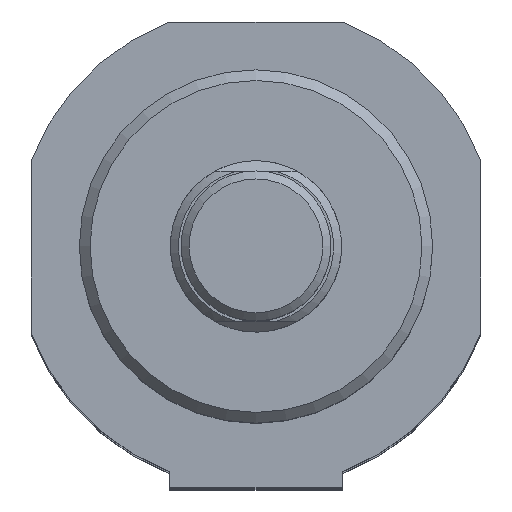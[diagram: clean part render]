
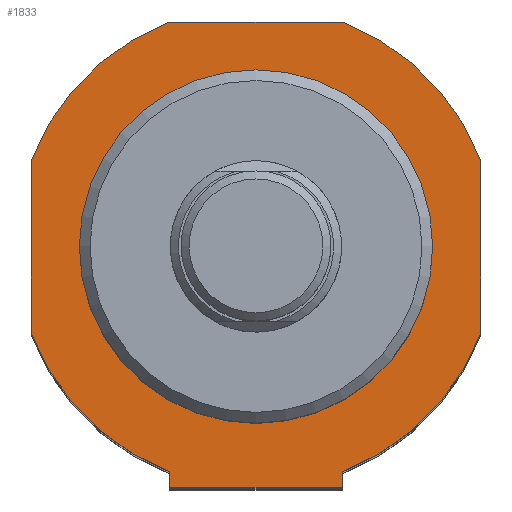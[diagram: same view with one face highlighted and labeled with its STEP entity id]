
A CAD part, top view. The second image highlights one B-rep face of the part: STEP entity #1833.
In plain terms, the highlighted planar face has unit normal (0, 0, 1).
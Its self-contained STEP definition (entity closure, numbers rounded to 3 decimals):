
#898=CARTESIAN_POINT('',(8.078,-22.5,149.0));
#899=VERTEX_POINT('',#898);
#900=CARTESIAN_POINT('',(-8.078,-22.5,149.0));
#901=VERTEX_POINT('',#900);
#902=CARTESIAN_POINT('',(8.078,-22.5,149.0));
#903=DIRECTION('',(-1.0,0.0,0.0));
#904=VECTOR('',#903,16.155);
#905=LINE('',#902,#904);
#906=EDGE_CURVE('',#899,#901,#905,.T.);
#1054=CARTESIAN_POINT('',(-8.078,-21.,149.0));
#1055=VERTEX_POINT('',#1054);
#1069=CARTESIAN_POINT('',(-8.078,-21.,149.0));
#1070=DIRECTION('',(0.0,-1.0,0.0));
#1071=VECTOR('',#1070,1.5);
#1072=LINE('',#1069,#1071);
#1073=EDGE_CURVE('',#1055,#901,#1072,.T.);
#1085=CARTESIAN_POINT('',(8.078,-21.,149.0));
#1086=VERTEX_POINT('',#1085);
#1093=CARTESIAN_POINT('',(8.078,-21.,149.0));
#1094=DIRECTION('',(0.0,-1.0,0.0));
#1095=VECTOR('',#1094,1.5);
#1096=LINE('',#1093,#1095);
#1097=EDGE_CURVE('',#1086,#899,#1096,.T.);
#1561=CARTESIAN_POINT('',(16.5,0.,149.0));
#1562=VERTEX_POINT('',#1561);
#1563=CARTESIAN_POINT('',(0.,0.,149.0));
#1564=DIRECTION('',(0.0,0.0,-1.0));
#1565=DIRECTION('',(-1.0,0.0,0.0));
#1566=AXIS2_PLACEMENT_3D('',#1563,#1564,#1565);
#1567=CIRCLE('',#1566,16.5);
#1568=EDGE_CURVE('',#1562,#1562,#1567,.T.);
#1653=CARTESIAN_POINT('',(-8.078,21.,149.0));
#1654=VERTEX_POINT('',#1653);
#1655=CARTESIAN_POINT('',(8.078,21.,149.0));
#1656=VERTEX_POINT('',#1655);
#1657=CARTESIAN_POINT('',(-8.078,21.,149.0));
#1658=DIRECTION('',(1.0,0.0,0.0));
#1659=VECTOR('',#1658,16.155);
#1660=LINE('',#1657,#1659);
#1661=EDGE_CURVE('',#1654,#1656,#1660,.T.);
#1684=CARTESIAN_POINT('',(21.,8.078,149.0));
#1685=VERTEX_POINT('',#1684);
#1686=CARTESIAN_POINT('',(0.,0.,149.0));
#1687=DIRECTION('',(0.,0.,-1.0));
#1688=DIRECTION('',(0.933,0.359,0.));
#1689=AXIS2_PLACEMENT_3D('',#1686,#1687,#1688);
#1690=CIRCLE('',#1689,22.5);
#1691=EDGE_CURVE('',#1656,#1685,#1690,.T.);
#1709=CARTESIAN_POINT('',(21.,-8.078,149.0));
#1710=VERTEX_POINT('',#1709);
#1711=CARTESIAN_POINT('',(21.,8.078,149.0));
#1712=DIRECTION('',(0.0,-1.0,0.0));
#1713=VECTOR('',#1712,16.155);
#1714=LINE('',#1711,#1713);
#1715=EDGE_CURVE('',#1685,#1710,#1714,.T.);
#1733=CARTESIAN_POINT('',(0.,0.,149.0));
#1734=DIRECTION('',(0.,0.,-1.));
#1735=DIRECTION('',(0.359,-0.933,0.));
#1736=AXIS2_PLACEMENT_3D('',#1733,#1734,#1735);
#1737=CIRCLE('',#1736,22.5);
#1738=EDGE_CURVE('',#1710,#1086,#1737,.T.);
#1751=CARTESIAN_POINT('',(-21.,-8.078,149.0));
#1752=VERTEX_POINT('',#1751);
#1753=CARTESIAN_POINT('',(0.,0.,149.0));
#1754=DIRECTION('',(0.,0.,-1.0));
#1755=DIRECTION('',(-0.933,-0.359,0.));
#1756=AXIS2_PLACEMENT_3D('',#1753,#1754,#1755);
#1757=CIRCLE('',#1756,22.5);
#1758=EDGE_CURVE('',#1055,#1752,#1757,.T.);
#1776=CARTESIAN_POINT('',(-21.,8.078,149.0));
#1777=VERTEX_POINT('',#1776);
#1778=CARTESIAN_POINT('',(-21.,-8.078,149.0));
#1779=DIRECTION('',(0.0,1.0,0.0));
#1780=VECTOR('',#1779,16.155);
#1781=LINE('',#1778,#1780);
#1782=EDGE_CURVE('',#1752,#1777,#1781,.T.);
#1800=CARTESIAN_POINT('',(0.,0.,149.0));
#1801=DIRECTION('',(0.,0.,-1.));
#1802=DIRECTION('',(-0.359,0.933,0.));
#1803=AXIS2_PLACEMENT_3D('',#1800,#1801,#1802);
#1804=CIRCLE('',#1803,22.5);
#1805=EDGE_CURVE('',#1777,#1654,#1804,.T.);
#1813=CARTESIAN_POINT('',(0.,0.0,149.0));
#1814=DIRECTION('',(0.0,0.0,1.0));
#1815=DIRECTION('',(1.0,0.0,0.0));
#1816=AXIS2_PLACEMENT_3D('',#1813,#1814,#1815);
#1817=PLANE('',#1816);
#1818=ORIENTED_EDGE('',*,*,#1661,.F.);
#1819=ORIENTED_EDGE('',*,*,#1805,.F.);
#1820=ORIENTED_EDGE('',*,*,#1782,.F.);
#1821=ORIENTED_EDGE('',*,*,#1758,.F.);
#1822=ORIENTED_EDGE('',*,*,#1073,.T.);
#1823=ORIENTED_EDGE('',*,*,#906,.F.);
#1824=ORIENTED_EDGE('',*,*,#1097,.F.);
#1825=ORIENTED_EDGE('',*,*,#1738,.F.);
#1826=ORIENTED_EDGE('',*,*,#1715,.F.);
#1827=ORIENTED_EDGE('',*,*,#1691,.F.);
#1828=EDGE_LOOP('',(#1818,#1819,#1820,#1821,#1822,#1823,#1824,#1825,#1826,#1827));
#1829=FACE_OUTER_BOUND('',#1828,.T.);
#1830=ORIENTED_EDGE('',*,*,#1568,.T.);
#1831=EDGE_LOOP('',(#1830));
#1832=FACE_BOUND('',#1831,.T.);
#1833=ADVANCED_FACE('',(#1829,#1832),#1817,.T.);
